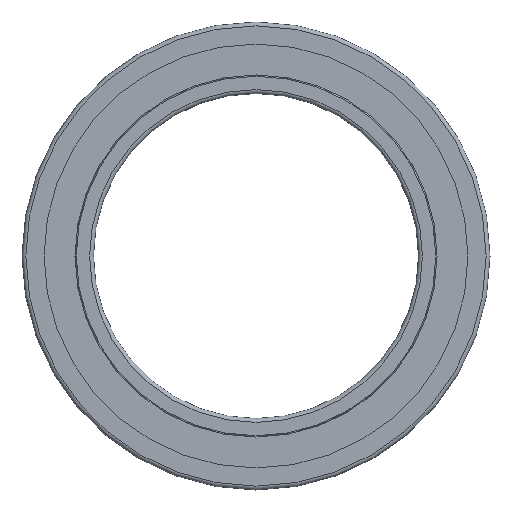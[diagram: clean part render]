
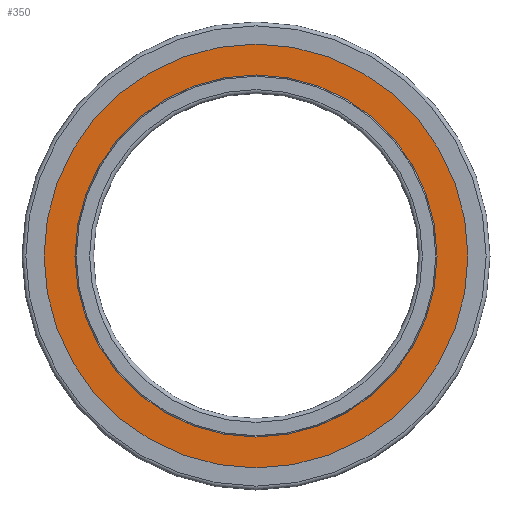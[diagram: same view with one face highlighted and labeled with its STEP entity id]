
A CAD part, left-side view. The second image highlights one B-rep face of the part: STEP entity #350.
In plain terms, the highlighted planar face has unit normal (-1, 0, 0).
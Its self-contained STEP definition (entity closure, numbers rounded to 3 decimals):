
#288=PLANE('',#1288);
#350=ADVANCED_FACE('',(#457,#458),#288,.F.);
#457=FACE_BOUND('',#671,.T.);
#458=FACE_BOUND('',#672,.T.);
#671=EDGE_LOOP('',(#855));
#672=EDGE_LOOP('',(#856));
#855=ORIENTED_EDGE('',*,*,#1153,.F.);
#856=ORIENTED_EDGE('',*,*,#1151,.T.);
#1029=VERTEX_POINT('',#1668);
#1031=VERTEX_POINT('',#1673);
#1151=EDGE_CURVE('',#1029,#1029,#1243,.T.);
#1153=EDGE_CURVE('',#1031,#1031,#1245,.T.);
#1243=CIRCLE('',#1284,32.6);
#1245=CIRCLE('',#1287,27.85);
#1284=AXIS2_PLACEMENT_3D('',#1667,#1426,#1427);
#1287=AXIS2_PLACEMENT_3D('',#1672,#1432,#1433);
#1288=AXIS2_PLACEMENT_3D('',#1674,#1434,#1435);
#1426=DIRECTION('',(-1.,0.,0.));
#1427=DIRECTION('',(0.,0.,1.));
#1432=DIRECTION('',(-1.,0.,0.));
#1433=DIRECTION('',(0.,0.,1.));
#1434=DIRECTION('',(1.,0.,0.));
#1435=DIRECTION('',(0.,0.,-1.));
#1667=CARTESIAN_POINT('',(0.1,0.,0.));
#1668=CARTESIAN_POINT('',(0.1,0.,32.6));
#1672=CARTESIAN_POINT('',(0.1,0.,0.));
#1673=CARTESIAN_POINT('',(0.1,0.,27.85));
#1674=CARTESIAN_POINT('',(0.1,0.,32.6));
